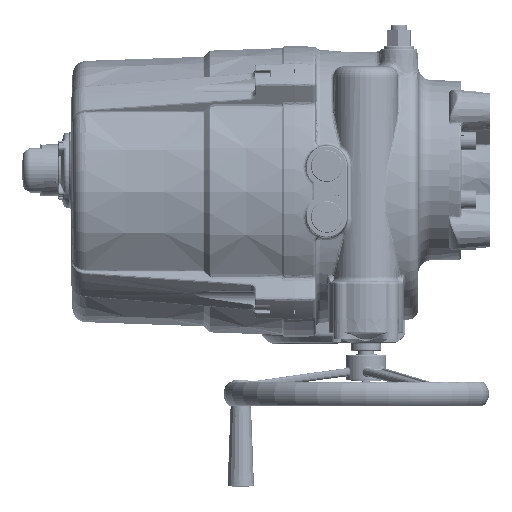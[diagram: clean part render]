
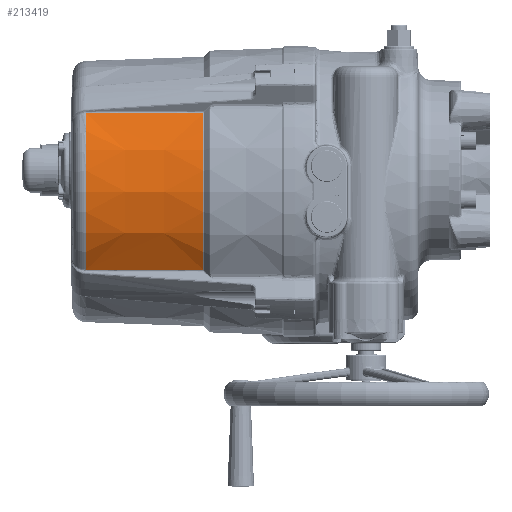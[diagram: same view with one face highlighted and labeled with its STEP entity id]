
A CAD part, left-side view. The second image highlights one B-rep face of the part: STEP entity #213419.
In plain terms, the highlighted conical face has half-angle 2 degrees and reference radius 132.5 mm.
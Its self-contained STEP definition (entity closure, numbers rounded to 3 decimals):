
#1561 = CARTESIAN_POINT ( 'NONE',  ( -107.81, 90.379, -77.005 ) ) ;
#3356 = CARTESIAN_POINT ( 'NONE',  ( -103.035, 205.489, 76.729 ) ) ;
#6192 = DIRECTION ( 'NONE',  ( 0., -1., 0. ) ) ;
#7595 = B_SPLINE_CURVE_WITH_KNOTS ( 'NONE', 3,
 ( #409900, #159469, #445912, #231520, #16960, #267501, #52872, #303479, #88972, #339411, #125083, #375337, #161020 ),
 .UNSPECIFIED., .F., .F.,
 ( 4, 3, 3, 3, 4 ),
 ( 0., 0.004, 0.02, 0.084, 0.116 ),
 .UNSPECIFIED. ) ;
#9302 = VERTEX_POINT ( 'NONE', #3356 ) ;
#16960 = CARTESIAN_POINT ( 'NONE',  ( -107.44, 99.311, 76.985 ) ) ;
#22368 = EDGE_CURVE ( 'NONE', #130378, #9302, #7595, .T. ) ;
#33096 = EDGE_CURVE ( 'NONE', #35407, #130378, #90052, .T. ) ;
#35407 = VERTEX_POINT ( 'NONE', #1561 ) ;
#35468 = CONICAL_SURFACE ( 'NONE', #315098, 132.5, 0.035 ) ;
#46735 = FACE_OUTER_BOUND ( 'NONE', #217962, .T. ) ;
#51725 = CARTESIAN_POINT ( 'NONE',  ( -103.146, 202.824, -76.736 ) ) ;
#52872 = CARTESIAN_POINT ( 'NONE',  ( -106.999, 109.969, 76.961 ) ) ;
#87809 = CARTESIAN_POINT ( 'NONE',  ( -103.423, 196.163, -76.754 ) ) ;
#88972 = CARTESIAN_POINT ( 'NONE',  ( -105.233, 152.599, 76.863 ) ) ;
#90052 = CIRCLE ( 'NONE', #451307, 132.486 ) ;
#102025 = ORIENTED_EDGE ( 'NONE', *, *, #287140, .T. ) ;
#120837 = CARTESIAN_POINT ( 'NONE',  ( -103.091, 204.156, -76.733 ) ) ;
#122106 = ORIENTED_EDGE ( 'NONE', *, *, #279935, .T. ) ;
#122690 = ORIENTED_EDGE ( 'NONE', *, *, #22368, .T. ) ;
#123914 = CARTESIAN_POINT ( 'NONE',  ( -103.866, 185.506, -76.781 ) ) ;
#125083 = CARTESIAN_POINT ( 'NONE',  ( -103.911, 184.439, 76.784 ) ) ;
#125236 = DIRECTION ( 'NONE',  ( 0., -1., 0. ) ) ;
#126771 = DIRECTION ( 'NONE',  ( 0., 0., -1. ) ) ;
#130378 = VERTEX_POINT ( 'NONE', #168004 ) ;
#157468 = AXIS2_PLACEMENT_3D ( 'NONE', #220796, #6192, #256717 ) ;
#159469 = CARTESIAN_POINT ( 'NONE',  ( -107.76, 91.58, 77.002 ) ) ;
#159858 = CARTESIAN_POINT ( 'NONE',  ( -105.636, 142.876, -76.886 ) ) ;
#161020 = CARTESIAN_POINT ( 'NONE',  ( -103.035, 205.489, 76.729 ) ) ;
#163182 = VERTEX_POINT ( 'NONE', #338686 ) ;
#168004 = CARTESIAN_POINT ( 'NONE',  ( -107.81, 90.379, 77.005 ) ) ;
#176498 = ORIENTED_EDGE ( 'NONE', *, *, #33096, .T. ) ;
#177959 = B_SPLINE_CURVE_WITH_KNOTS ( 'NONE', 3,
 ( #230365, #120837, #51725, #302337, #87809, #338241, #123914, #374171, #159858, #410278, #195860, #446300, #231914 ),
 .UNSPECIFIED., .F., .F.,
 ( 4, 3, 3, 3, 4 ),
 ( 0., 0.004, 0.02, 0.084, 0.115 ),
 .UNSPECIFIED. ) ;
#195860 = CARTESIAN_POINT ( 'NONE',  ( -106.949, 111.167, -76.959 ) ) ;
#196282 = CARTESIAN_POINT ( 'NONE',  ( 0., 90.379, 0. ) ) ;
#213419 = ADVANCED_FACE ( 'NONE', ( #46735 ), #35468, .T. ) ;
#217962 = EDGE_LOOP ( 'NONE', ( #122106, #176498, #122690, #102025 ) ) ;
#220796 = CARTESIAN_POINT ( 'NONE',  ( 0., 205.489, 0. ) ) ;
#230365 = CARTESIAN_POINT ( 'NONE',  ( -103.035, 205.489, -76.729 ) ) ;
#231520 = CARTESIAN_POINT ( 'NONE',  ( -107.661, 93.982, 76.997 ) ) ;
#231914 = CARTESIAN_POINT ( 'NONE',  ( -107.81, 90.379, -77.005 ) ) ;
#232319 = DIRECTION ( 'NONE',  ( 0., 0., -1. ) ) ;
#256717 = DIRECTION ( 'NONE',  ( 0., 0., -1. ) ) ;
#267501 = CARTESIAN_POINT ( 'NONE',  ( -107.22, 104.64, 76.973 ) ) ;
#279935 = EDGE_CURVE ( 'NONE', #163182, #35407, #177959, .T. ) ;
#287140 = EDGE_CURVE ( 'NONE', #9302, #163182, #316654, .T. ) ;
#302337 = CARTESIAN_POINT ( 'NONE',  ( -103.202, 201.492, -76.74 ) ) ;
#303479 = CARTESIAN_POINT ( 'NONE',  ( -106.117, 131.284, 76.913 ) ) ;
#315098 = AXIS2_PLACEMENT_3D ( 'NONE', #377032, #125236, #126771 ) ;
#316654 = CIRCLE ( 'NONE', #157468, 128.467 ) ;
#338241 = CARTESIAN_POINT ( 'NONE',  ( -103.645, 190.835, -76.767 ) ) ;
#338686 = CARTESIAN_POINT ( 'NONE',  ( -103.035, 205.489, -76.729 ) ) ;
#339411 = CARTESIAN_POINT ( 'NONE',  ( -104.348, 173.913, 76.81 ) ) ;
#374171 = CARTESIAN_POINT ( 'NONE',  ( -104.752, 164.191, -76.835 ) ) ;
#375337 = CARTESIAN_POINT ( 'NONE',  ( -103.473, 194.964, 76.757 ) ) ;
#377032 = CARTESIAN_POINT ( 'NONE',  ( 0., 89.986, 0. ) ) ;
#409900 = CARTESIAN_POINT ( 'NONE',  ( -107.81, 90.379, 77.005 ) ) ;
#410278 = CARTESIAN_POINT ( 'NONE',  ( -106.519, 121.561, -76.935 ) ) ;
#445912 = CARTESIAN_POINT ( 'NONE',  ( -107.71, 92.781, 76.999 ) ) ;
#446300 = CARTESIAN_POINT ( 'NONE',  ( -107.38, 100.773, -76.982 ) ) ;
#446707 = DIRECTION ( 'NONE',  ( 0., 1., 0. ) ) ;
#451307 = AXIS2_PLACEMENT_3D ( 'NONE', #196282, #446707, #232319 ) ;
